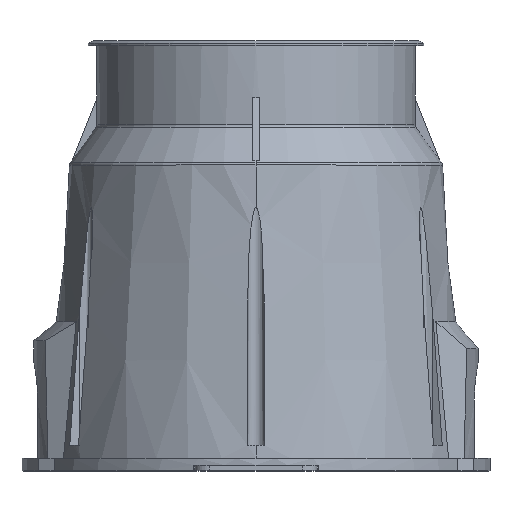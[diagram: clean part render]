
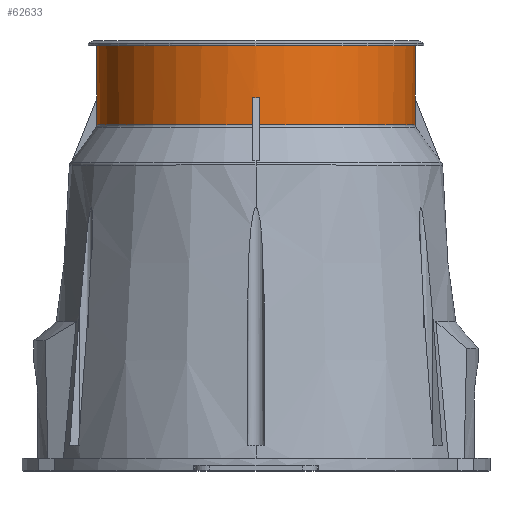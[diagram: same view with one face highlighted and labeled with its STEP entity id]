
A CAD part, top view. The second image highlights one B-rep face of the part: STEP entity #62633.
In plain terms, the highlighted cylindrical face has radius 64 mm (diameter 128 mm), a partial arc.
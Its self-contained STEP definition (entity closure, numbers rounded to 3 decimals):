
#53923=CARTESIAN_POINT('',(0.,32.5,0.));
#53924=DIRECTION('',(0.,1.,0.));
#53925=DIRECTION('',(-1.,0.,0.));
#53926=AXIS2_PLACEMENT_3D('',#53923,#53924,#53925);
#53943=DIRECTION('',(0.,1.,0.));
#53944=VECTOR('',#53943,21.);
#53945=CARTESIAN_POINT('',(64.,11.5,0.));
#53946=LINE('',#53945,#53944);
#54004=CARTESIAN_POINT('',(-63.988,0.655,1.25));
#54006=CARTESIAN_POINT('',(0.,0.655,0.));
#54007=DIRECTION('',(0.,1.,0.));
#54008=DIRECTION('',(-1.,0.,0.02));
#54009=AXIS2_PLACEMENT_3D('',#54006,#54007,#54008);
#54025=CARTESIAN_POINT('',(1.25,0.655,63.988));
#54027=CARTESIAN_POINT('',(0.,0.655,0.));
#54028=DIRECTION('',(0.,1.,0.));
#54029=DIRECTION('',(0.02,0.,1.));
#54030=AXIS2_PLACEMENT_3D('',#54027,#54028,#54029);
#54169=CARTESIAN_POINT('',(0.,11.5,0.));
#54170=DIRECTION('',(0.,1.,0.));
#54171=DIRECTION('',(-1.,0.,0.));
#54172=AXIS2_PLACEMENT_3D('',#54169,#54170,#54171);
#54174=DIRECTION('',(0.,1.,0.));
#54175=VECTOR('',#54174,21.);
#54176=CARTESIAN_POINT('',(-64.,11.5,0.));
#54177=LINE('',#54176,#54175);
#54178=CARTESIAN_POINT('',(0.,11.5,0.));
#54179=DIRECTION('',(0.,1.,0.));
#54180=DIRECTION('',(1.,0.,0.02));
#54181=AXIS2_PLACEMENT_3D('',#54178,#54179,#54180);
#54183=DIRECTION('',(0.,1.,0.));
#54184=VECTOR('',#54183,10.845);
#54185=CARTESIAN_POINT('',(63.988,0.655,1.25));
#54186=LINE('',#54185,#54184);
#54187=DIRECTION('',(0.,1.,0.));
#54188=VECTOR('',#54187,10.845);
#54189=CARTESIAN_POINT('',(1.25,0.655,63.988));
#54190=LINE('',#54189,#54188);
#54191=CARTESIAN_POINT('',(0.,11.5,0.));
#54192=DIRECTION('',(0.,1.,0.));
#54193=DIRECTION('',(-0.02,0.,1.));
#54194=AXIS2_PLACEMENT_3D('',#54191,#54192,#54193);
#54196=DIRECTION('',(0.,1.,0.));
#54197=VECTOR('',#54196,10.845);
#54198=CARTESIAN_POINT('',(-1.25,0.655,63.988));
#54199=LINE('',#54198,#54197);
#54200=DIRECTION('',(0.,1.,0.));
#54201=VECTOR('',#54200,10.845);
#54202=CARTESIAN_POINT('',(-63.988,0.655,1.25));
#54203=LINE('',#54202,#54201);
#61030=VERTEX_POINT('',#54004);
#61031=CARTESIAN_POINT('',(-1.25,0.655,63.988));
#61033=VERTEX_POINT('',#61031);
#61036=VERTEX_POINT('',#54025);
#61037=CARTESIAN_POINT('',(63.988,0.655,1.25));
#61039=VERTEX_POINT('',#61037);
#61049=CARTESIAN_POINT('',(64.,11.5,0.));
#61051=VERTEX_POINT('',#61049);
#61058=CARTESIAN_POINT('',(-64.,11.5,0.));
#61060=VERTEX_POINT('',#61058);
#61061=CARTESIAN_POINT('',(-63.988,11.5,1.25));
#61062=VERTEX_POINT('',#61061);
#61063=CARTESIAN_POINT('',(-1.25,11.5,63.988));
#61064=CARTESIAN_POINT('',(1.25,11.5,63.988));
#61065=VERTEX_POINT('',#61063);
#61066=VERTEX_POINT('',#61064);
#61067=CARTESIAN_POINT('',(63.988,11.5,1.25));
#61068=VERTEX_POINT('',#61067);
#62336=CARTESIAN_POINT('',(64.,32.5,0.));
#62337=CARTESIAN_POINT('',(-64.,32.5,0.));
#62338=VERTEX_POINT('',#62336);
#62339=VERTEX_POINT('',#62337);
#62611=CARTESIAN_POINT('',(0.,0.,0.));
#62612=DIRECTION('',(0.,1.,0.));
#62613=DIRECTION('',(1.,0.,0.));
#62614=AXIS2_PLACEMENT_3D('',#62611,#62612,#62613);
#62615=CYLINDRICAL_SURFACE('',#62614,64.);
#62617=ORIENTED_EDGE('',*,*,#62616,.F.);
#62618=ORIENTED_EDGE('',*,*,#62372,.T.);
#62619=ORIENTED_EDGE('',*,*,#62351,.T.);
#62620=ORIENTED_EDGE('',*,*,#62369,.F.);
#62621=ORIENTED_EDGE('',*,*,#62405,.F.);
#62622=ORIENTED_EDGE('',*,*,#62606,.F.);
#62623=ORIENTED_EDGE('',*,*,#62469,.F.);
#62625=ORIENTED_EDGE('',*,*,#62624,.T.);
#62626=ORIENTED_EDGE('',*,*,#62415,.F.);
#62627=ORIENTED_EDGE('',*,*,#62512,.F.);
#62628=ORIENTED_EDGE('',*,*,#62453,.F.);
#62630=ORIENTED_EDGE('',*,*,#62629,.T.);
#62631=EDGE_LOOP('',(#62617,#62618,#62619,#62620,#62621,#62622,#62623,#62625,
#62626,#62627,#62628,#62630));
#62632=FACE_OUTER_BOUND('',#62631,.F.);
#62633=ADVANCED_FACE('',(#62632),#62615,.T.);
#53927=CIRCLE('',#53926,64.);
#54010=CIRCLE('',#54009,64.);
#54031=CIRCLE('',#54030,64.);
#54173=CIRCLE('',#54172,64.);
#54182=CIRCLE('',#54181,64.);
#54195=CIRCLE('',#54194,64.);
#62351=EDGE_CURVE('',#62339,#62338,#53927,.T.);
#62369=EDGE_CURVE('',#61051,#62338,#53946,.T.);
#62372=EDGE_CURVE('',#61060,#62339,#54177,.T.);
#62405=EDGE_CURVE('',#61068,#61051,#54182,.T.);
#62415=EDGE_CURVE('',#61065,#61066,#54195,.T.);
#62453=EDGE_CURVE('',#61030,#61033,#54010,.T.);
#62469=EDGE_CURVE('',#61036,#61039,#54031,.T.);
#62512=EDGE_CURVE('',#61033,#61065,#54199,.T.);
#62606=EDGE_CURVE('',#61039,#61068,#54186,.T.);
#62616=EDGE_CURVE('',#61060,#61062,#54173,.T.);
#62624=EDGE_CURVE('',#61036,#61066,#54190,.T.);
#62629=EDGE_CURVE('',#61030,#61062,#54203,.T.);
